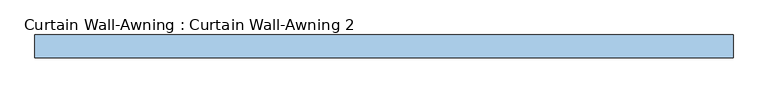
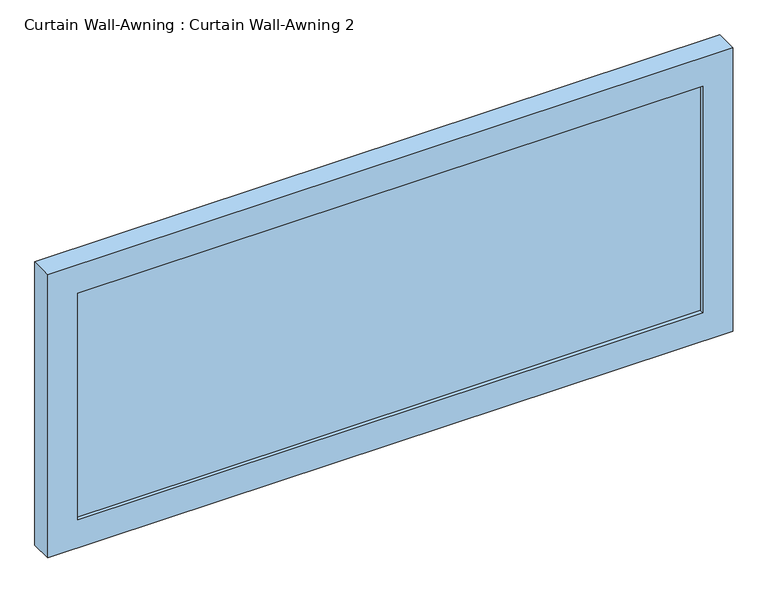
"""IFC4 building model written with IfcOpenShell, lengths in millimetres: window geometry, Curtain Wall-Awning : Curtain Wall-Awning 2."""

from ifc_helpers import new_model, si_unit, frame, origin, place, context, project, spatial, polyline, outline, extrude, source, transform, mapped, element, save


def curtain_wall_awning_curtain_wall_awning_2_7b8b8e84(model_context):
    return source(origin(), model_context, "Body", "SweptSolid", [
        extrude(outline(polyline([(530.225, 19.05), (530.225, 6.35), (-530.225, 6.35), (-530.225, 19.05), (530.225, 19.05)])), frame((0.0, 0.0, 50.8), z_axis=(0.0, 0.0, 1.0), x_axis=(1.0, 0.0, 0.0)), (0.0, 0.0, 1.0), 406.2774401),
        extrude(outline(polyline([(507.8774401, -581.025), (0.0, -581.025), (0.0, 581.025), (507.8774401, 581.025), (507.8774401, -581.025)]), holes=[polyline([(457.0774401, -530.225), (457.0774401, 530.225), (50.8, 530.225), (50.8, -530.225), (457.0774401, -530.225)])]), frame((0.0, 0.0, 0.0), z_axis=(0.0, 1.0, 0.0), x_axis=(0.0, 0.0, 1.0)), (0.0, 0.0, 1.0), 38.1),
    ])


if __name__ == "__main__":
    model = new_model("IFC4")
    model_context = context("Model", 3, world=origin())
    ifc_project = project(units=[si_unit("LENGTHUNIT", "METRE", prefix="MILLI")], contexts=[model_context])
    site = spatial("IfcSite", under=ifc_project)
    building = spatial("IfcBuilding", under=site)
    placement = place(None, origin())
    curtain_wall_awning_curtain_wall_awning_2_shape = curtain_wall_awning_curtain_wall_awning_2_7b8b8e84(model_context)
    element("IfcWindow", 1, ObjectType="Curtain Wall-Awning : Curtain Wall-Awning 2", at=placement, inside=building, context=model_context, shape_type="MappedRepresentation", body=[
        mapped(curtain_wall_awning_curtain_wall_awning_2_shape, transform((0.0, 0.0, 0.0), x_axis=(1.0, 0.0, 0.0), y_axis=(0.0, 1.0, 0.0), z_axis=(0.0, 0.0, 1.0))),
    ])
    save(model, "model.ifc")
